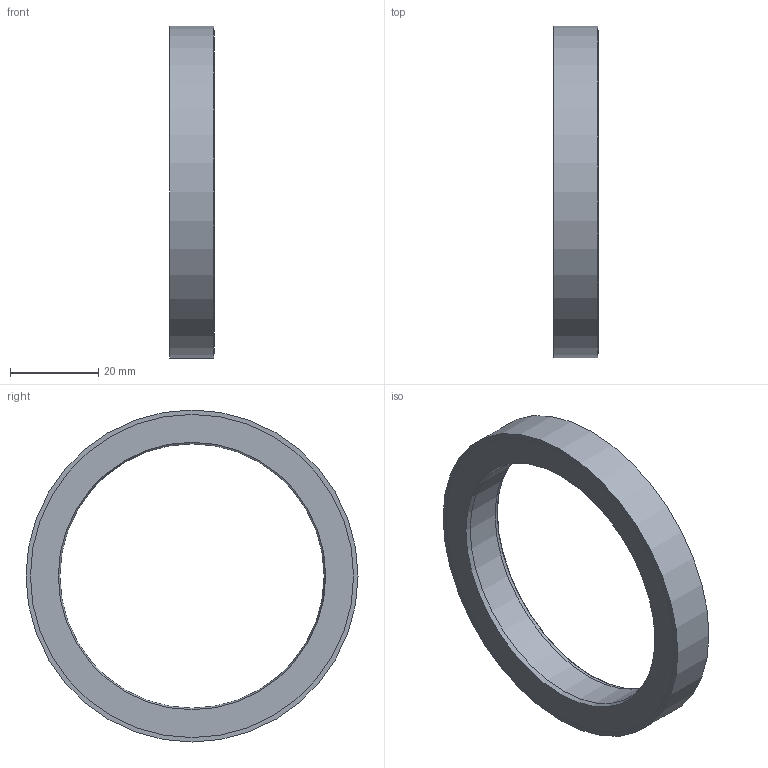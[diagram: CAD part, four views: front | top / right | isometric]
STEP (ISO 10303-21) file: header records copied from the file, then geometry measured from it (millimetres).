
FILE_DESCRIPTION(/* description */ ('STEP AP214','CAx-IF Rec.Pracs.---Representation and Presentation of Product Manufacturing Information (PMI)---4.0---2014-10-13'),/* implementation_level */ '2;1');
FILE_NAME(/* name */ 'C:\DESKTOP\홈페이지용 엔코더 3D 데이타 및 사진관련 자료\Bearingless type\Radial Type\RH75-60-32-31-1.28-HN-AL\RH75-60-32-31-1.28-HN-AL.stp',/* time_stamp */ '2023-06-05T21:53:55+08:00',/* author */ ('hnckhn'),/* organization */ (''),/* preprocessor_version */ 'ST-DEVELOPER v18.1',/* originating_system */ 'Autodesk Inventor 2021',/* authorisation */ '');
FILE_SCHEMA (('AP242_MANAGED_MODEL_BASED_3D_ENGINEERING_MIM_LF { 1 0 10303 442 1 1 4 }'));
Length unit declared in the file: millimetre
Products named in the file (1): RH75-60-32-31-1.28-HN-AL
Bounding box: 10.1 x 75.4 x 75.4 mm (x, y, z)
Volume: 16439.1 mm3; surface area: 12071.3 mm2
Topology: 2 solids, 2 shells, 11 faces, 32 edges, 25 vertices
Faces by surface type: cylinder 5, plane 4, cone 2
Full cylindrical faces by diameter (mm): 60 x1, 60.728 x1, 73.4 x1, 73.402 x1, 75.4 x1
Entity records: 553 total; most frequent: DIRECTION 107, CARTESIAN_POINT 84, ORIENTED_EDGE 60, AXIS2_PLACEMENT_3D 50, EDGE_CURVE 30, CIRCLE 25, VERTEX_POINT 23, EDGE_LOOP 15
